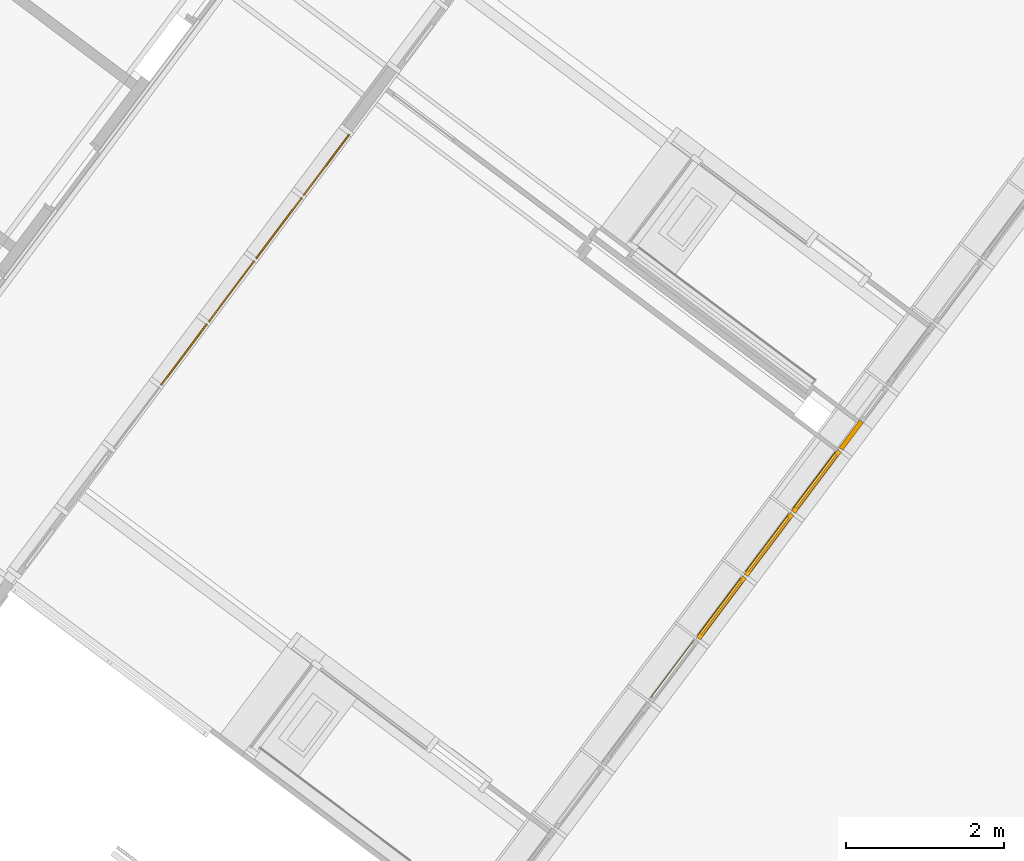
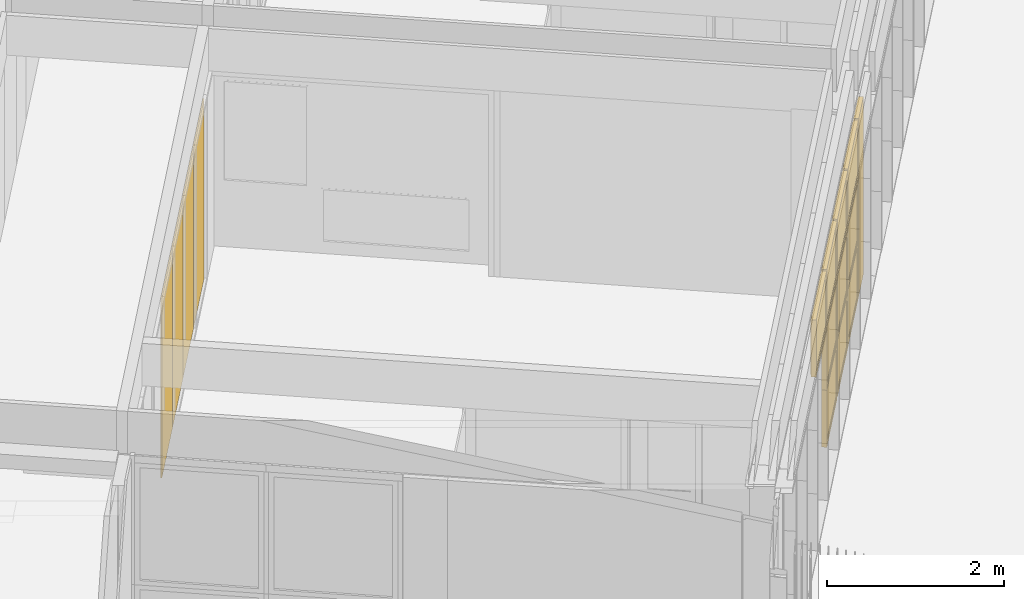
# One storey, part 151 of 243: 14 windows, 1 door, 2 elements without a shape of their own.
"""IFC2X3 building model written with IfcOpenShell, lengths in metres."""

from ifc_helpers import new_model, entity, si_unit, converted_unit, derived_unit, direction, frame, origin, origin_2d_with_axis, place, context, subcontext, project, spatial, rectangle, extrude, faceted_brep, source, transform, mapped, material, material_list, type_object, type_shapes, element, aggregate, save


model = new_model("IFC2X3")

# Units and contexts
model_context = context("Model", 3, precision=1e-05, world=origin(), true_north=direction((6.123031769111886e-17, 1.0)))
body_context = subcontext(model_context, "Body", "Model", "MODEL_VIEW")
ifc_project = project(units=[si_unit("LENGTHUNIT", "METRE"), si_unit("AREAUNIT", "SQUARE_METRE"), si_unit("VOLUMEUNIT", "CUBIC_METRE"), converted_unit("PLANEANGLEUNIT", "DEGREE", entity("IfcRatioMeasure", 0.017453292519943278), si_unit("PLANEANGLEUNIT", "RADIAN"), dimensions=[0, 0, 0, 0, 0, 0, 0]), si_unit("MASSUNIT", "GRAM", prefix="KILO"), derived_unit("MASSDENSITYUNIT", [(si_unit("MASSUNIT", "GRAM", prefix="KILO"), 1), (si_unit("LENGTHUNIT", "METRE"), -3)]), derived_unit("IONCONCENTRATIONUNIT", [(si_unit("MASSUNIT", "GRAM", prefix="KILO"), 1), (si_unit("LENGTHUNIT", "METRE"), -3)]), derived_unit("MOMENTOFINERTIAUNIT", [(si_unit("LENGTHUNIT", "METRE"), 4)]), si_unit("TIMEUNIT", "SECOND"), si_unit("FREQUENCYUNIT", "HERTZ"), si_unit("THERMODYNAMICTEMPERATUREUNIT", "DEGREE_CELSIUS"), derived_unit("THERMALTRANSMITTANCEUNIT", [(si_unit("MASSUNIT", "GRAM", prefix="KILO"), 1), (si_unit("THERMODYNAMICTEMPERATUREUNIT", "KELVIN"), -1), (si_unit("TIMEUNIT", "SECOND"), -3)]), derived_unit("THERMALCONDUCTANCEUNIT", [(si_unit("MASSUNIT", "GRAM", prefix="KILO"), 1), (si_unit("THERMODYNAMICTEMPERATUREUNIT", "KELVIN"), -1), (si_unit("TIMEUNIT", "SECOND"), -3), (si_unit("LENGTHUNIT", "METRE"), 1)]), derived_unit("VOLUMETRICFLOWRATEUNIT", [(si_unit("LENGTHUNIT", "METRE"), 3), (si_unit("TIMEUNIT", "SECOND"), -1)]), derived_unit("MASSFLOWRATEUNIT", [(si_unit("MASSUNIT", "GRAM", prefix="KILO"), 1), (si_unit("TIMEUNIT", "SECOND"), -1)]), derived_unit("ROTATIONALFREQUENCYUNIT", [(si_unit("TIMEUNIT", "SECOND"), -1)]), si_unit("ELECTRICCURRENTUNIT", "AMPERE"), si_unit("ELECTRICVOLTAGEUNIT", "VOLT"), si_unit("POWERUNIT", "WATT"), si_unit("FORCEUNIT", "NEWTON", prefix="KILO"), si_unit("ILLUMINANCEUNIT", "LUX"), si_unit("LUMINOUSFLUXUNIT", "LUMEN"), si_unit("LUMINOUSINTENSITYUNIT", "CANDELA"), derived_unit("USERDEFINED", [(si_unit("MASSUNIT", "GRAM", prefix="KILO"), -1), (si_unit("LENGTHUNIT", "METRE"), -2), (si_unit("TIMEUNIT", "SECOND"), 3), (si_unit("LUMINOUSFLUXUNIT", "LUMEN"), 1)]), derived_unit("USERDEFINED", [(si_unit("MASSUNIT", "GRAM", prefix="KILO"), 1), (si_unit("TIMEUNIT", "SECOND"), -3), (si_unit("LENGTHUNIT", "METRE"), 3), (si_unit("ELECTRICCURRENTUNIT", "AMPERE"), -2)]), derived_unit("SOUNDPOWERUNIT", [(si_unit("MASSUNIT", "GRAM", prefix="KILO"), 1), (si_unit("TIMEUNIT", "SECOND"), -3), (si_unit("LENGTHUNIT", "METRE"), 2)]), derived_unit("SOUNDPRESSUREUNIT", [(si_unit("MASSUNIT", "GRAM", prefix="KILO"), 1), (si_unit("LENGTHUNIT", "METRE"), -1), (si_unit("TIMEUNIT", "SECOND"), -2)]), derived_unit("LINEARVELOCITYUNIT", [(si_unit("LENGTHUNIT", "METRE"), 1), (si_unit("TIMEUNIT", "SECOND"), -1)]), si_unit("PRESSUREUNIT", "PASCAL"), derived_unit("USERDEFINED", [(si_unit("MASSUNIT", "GRAM", prefix="KILO"), 1), (si_unit("LENGTHUNIT", "METRE"), -2), (si_unit("TIMEUNIT", "SECOND"), -2)]), derived_unit("LINEARFORCEUNIT", [(si_unit("MASSUNIT", "GRAM", prefix="KILO"), 1), (si_unit("TIMEUNIT", "SECOND"), -2)]), derived_unit("PLANARFORCEUNIT", [(si_unit("MASSUNIT", "GRAM", prefix="KILO"), 1), (si_unit("LENGTHUNIT", "METRE"), -1), (si_unit("TIMEUNIT", "SECOND"), -2)]), derived_unit("SPECIFICHEATCAPACITYUNIT", [(si_unit("THERMODYNAMICTEMPERATUREUNIT", "KELVIN"), -1), (si_unit("LENGTHUNIT", "METRE"), 2), (si_unit("TIMEUNIT", "SECOND"), -2)]), derived_unit("HEATINGVALUEUNIT", [(si_unit("LENGTHUNIT", "METRE"), 2), (si_unit("TIMEUNIT", "SECOND"), -2)]), derived_unit("VAPORPERMEABILITYUNIT", [(si_unit("LENGTHUNIT", "METRE"), -1), (si_unit("TIMEUNIT", "SECOND"), 1)]), derived_unit("DYNAMICVISCOSITYUNIT", [(si_unit("MASSUNIT", "GRAM", prefix="KILO"), 1), (si_unit("TIMEUNIT", "SECOND"), -1), (si_unit("LENGTHUNIT", "METRE"), -1)]), derived_unit("THERMALEXPANSIONCOEFFICIENTUNIT", [(si_unit("THERMODYNAMICTEMPERATUREUNIT", "KELVIN"), -1)]), derived_unit("MODULUSOFELASTICITYUNIT", [(si_unit("MASSUNIT", "GRAM", prefix="KILO"), 1), (si_unit("LENGTHUNIT", "METRE"), -1), (si_unit("TIMEUNIT", "SECOND"), -2)]), derived_unit("ISOTHERMALMOISTURECAPACITYUNIT", [(si_unit("LENGTHUNIT", "METRE"), 3), (si_unit("MASSUNIT", "GRAM", prefix="KILO"), -1)]), derived_unit("MOISTUREDIFFUSIVITYUNIT", [(si_unit("TIMEUNIT", "SECOND"), -1), (si_unit("LENGTHUNIT", "METRE"), 2)])], contexts=[model_context])

# Site, building, storey
site_placement = place(None, frame((0.0, 0.0, 235.0), z_axis=(0.0, 0.0, 1.0), x_axis=(-0.7996477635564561, 0.6004693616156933, 0.0)))
site = spatial("IfcSite", under=ifc_project, at=site_placement, Name="Default", CompositionType="ELEMENT")
building_placement = place(site_placement, origin())
building = spatial("IfcBuilding", under=site, at=building_placement, CompositionType="ELEMENT")
storey_placement = place(building_placement, origin())
storey = spatial("IfcBuildingStorey", under=building, at=storey_placement, Name="P0- Escola", CompositionType="ELEMENT", Elevation=0.0)

# Curtain wall, windows
curtain_wall_type_1 = type_object("IfcCurtainWallType", Name="Muro cortina:MC- INT- a3", PredefinedType="NOTDEFINED")
curtain_wall_1_placement = place(storey_placement, origin())
curtain_wall_1 = element("IfcCurtainWall", 1, at=curtain_wall_1_placement, inside=storey, type_object=curtain_wall_type_1, Name="Muro cortina:MC- INT- a3", ObjectType="Muro cortina:MC- INT- a3")
ifc_material_1 = material(Name="_Vidre")
window_style_1 = type_object("IfcWindowStyle", Name="MC- Fusta- vidre fix:MC- Fusta- vidre fix", ConstructionType="NOTDEFINED", OperationType="NOTDEFINED", ParameterTakesPrecedence=False, Sizeable=False, material=ifc_material_1)
shared_shape_1 = source(origin(), body_context, "Body", "SweptSolid", [
    extrude(rectangle(XDim=0.015999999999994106, YDim=0.9699999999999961, at=origin_2d_with_axis()), frame((0.0, 0.0, 0.0), z_axis=(0.0, 0.0, 1.0), x_axis=(0.0, -1.0, 0.0)), (0.0, 0.0, 1.0), 2.475),
])
type_shapes(window_style_1, [shared_shape_1])
window_1_placement = place(curtain_wall_1_placement, frame((13.279147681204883, -24.970191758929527, 0.045000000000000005), z_axis=(0.0, 0.0, 1.0), x_axis=(0.0, -1.0, 0.0)))
window_1 = element("IfcWindow", 2, at=window_1_placement, type_object=window_style_1, material=ifc_material_1, Name="MC- Fusta- vidre fix:MC- Fusta- vidre fix", ObjectType="MC- Fusta- vidre fix:MC- Fusta- vidre fix", OverallHeight=2.475, OverallWidth=0.9699999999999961, context=body_context, shape_type="MappedRepresentation", body=[
    mapped(shared_shape_1, transform((0.0, 0.0, 0.0), scale=1.0)),
])
window_2_placement = place(curtain_wall_1_placement, frame((13.279147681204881, -23.97019175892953, 0.045000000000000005), z_axis=(0.0, 0.0, 1.0), x_axis=(0.0, -1.0, 0.0)))
window_2 = element("IfcWindow", 3, at=window_2_placement, type_object=window_style_1, material=ifc_material_1, Name="MC- Fusta- vidre fix:MC- Fusta- vidre fix", ObjectType="MC- Fusta- vidre fix:MC- Fusta- vidre fix", OverallHeight=2.475, OverallWidth=0.9699999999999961, context=body_context, shape_type="MappedRepresentation", body=[
    mapped(shared_shape_1, transform((0.0, 0.0, 0.0), scale=1.0)),
])
window_3_placement = place(curtain_wall_1_placement, frame((13.27914768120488, -22.97019175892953, 0.045000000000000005), z_axis=(0.0, 0.0, 1.0), x_axis=(0.0, -1.0, 0.0)))
window_3 = element("IfcWindow", 4, at=window_3_placement, type_object=window_style_1, material=ifc_material_1, Name="MC- Fusta- vidre fix:MC- Fusta- vidre fix", ObjectType="MC- Fusta- vidre fix:MC- Fusta- vidre fix", OverallHeight=2.475, OverallWidth=0.9699999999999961, context=body_context, shape_type="MappedRepresentation", body=[
    mapped(shared_shape_1, transform((0.0, 0.0, 0.0), scale=1.0)),
])
window_4_placement = place(curtain_wall_1_placement, frame((13.279147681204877, -21.970191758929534, 0.045000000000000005), z_axis=(0.0, 0.0, 1.0), x_axis=(0.0, -1.0, 0.0)))
window_4 = element("IfcWindow", 5, at=window_4_placement, type_object=window_style_1, material=ifc_material_1, Name="MC- Fusta- vidre fix:MC- Fusta- vidre fix", ObjectType="MC- Fusta- vidre fix:MC- Fusta- vidre fix", OverallHeight=2.475, OverallWidth=0.9699999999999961, context=body_context, shape_type="MappedRepresentation", body=[
    mapped(shared_shape_1, transform((0.0, 0.0, 0.0), scale=1.0)),
])
aggregate(curtain_wall_1, [window_1, window_2, window_3, window_4])

# Curtain wall, windows, door
curtain_wall_type_2 = type_object("IfcCurtainWallType", Name="Muro cortina:MC- EXT- MC2", PredefinedType="NOTDEFINED")
curtain_wall_2_placement = place(storey_placement, origin())
curtain_wall_2 = element("IfcCurtainWall", 6, at=curtain_wall_2_placement, inside=storey, type_object=curtain_wall_type_2, Name="Muro cortina:MC- EXT- MC2", ObjectType="Muro cortina:MC- EXT- MC2")
ifc_material_2 = material(Name="_Alumini- T1- Perfil")
ifc_material_list_1 = material_list([ifc_material_1, ifc_material_2])
window_style_2 = type_object("IfcWindowStyle", Name="MC- Alu- Conjunt vidre fix- 62x60 cm:MC- Alu- Conjunt vidre fix- 62x60 cm", ConstructionType="NOTDEFINED", OperationType="NOTDEFINED", ParameterTakesPrecedence=False, Sizeable=False, material=ifc_material_list_1)
shared_shape_2 = source(origin(), body_context, "Body", "Brep", [
    faceted_brep([(0.4361932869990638, -0.007600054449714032, 0.048806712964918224), (0.4361932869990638, -0.03160022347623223, 0.048806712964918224), (-0.4361932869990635, -0.03160022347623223, 0.048806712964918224), (-0.4361932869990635, -0.007600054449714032, 0.048806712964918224), (0.4361932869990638, -0.007600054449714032, 0.7387000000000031), (-0.4361932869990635, -0.007600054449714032, 0.7387000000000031), (-0.4361932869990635, -0.03160022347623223, 0.7387000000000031), (0.4361932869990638, -0.03160022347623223, 0.7387000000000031)], [[[0, 1, 2, 3]], [[4, 0, 3, 5]], [[5, 3, 2, 6]], [[6, 2, 1, 7]], [[7, 1, 0, 4]], [[4, 5, 6, 7]]]),
    faceted_brep([(0.48499999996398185, -0.05999999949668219, 0.7877000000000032), (0.48499999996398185, -0.05999999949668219, 0.0), (0.48499999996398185, 0.0, 0.0), (0.48499999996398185, 0.0, 0.787700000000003), (-0.48499999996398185, 0.0, 0.7877000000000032), (-0.48499999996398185, 0.0, 0.0), (0.4221931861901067, 0.0, 0.7248931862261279), (-0.42219318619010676, 0.0, 0.724893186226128), (-0.4221931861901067, 0.0, 0.0628068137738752), (0.4221931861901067, 0.0, 0.06280681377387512), (-0.48499999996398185, -0.05999999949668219, 0.0), (-0.48499999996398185, -0.05999999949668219, 0.7877000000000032), (-0.42219603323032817, -0.05999999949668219, 0.7248960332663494), (0.42219603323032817, -0.05999999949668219, 0.7248960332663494), (0.42219603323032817, -0.05999999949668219, 0.0628039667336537), (-0.42219603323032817, -0.05999999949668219, 0.0628039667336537), (0.4221960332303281, -0.03160022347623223, 0.7248960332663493), (0.42219603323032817, -0.03160022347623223, 0.0628039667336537), (-0.42219603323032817, -0.03160022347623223, 0.06280396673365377), (-0.42219603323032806, -0.03160022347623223, 0.7248960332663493), (-0.43619328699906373, -0.03160022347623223, 0.738893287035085), (0.43619328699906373, -0.03160022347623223, 0.738893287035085), (0.43619328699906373, -0.03160022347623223, 0.048806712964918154), (-0.43619328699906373, -0.03160022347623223, 0.04880671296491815), (0.43619328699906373, -0.007600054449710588, 0.738893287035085), (0.43619328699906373, -0.007600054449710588, 0.04880671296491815), (-0.43619328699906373, -0.007600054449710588, 0.048806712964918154), (-0.43619328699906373, -0.007600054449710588, 0.738893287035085), (-0.42219318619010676, -0.007600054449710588, 0.724893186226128), (0.42219318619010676, -0.007600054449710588, 0.724893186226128), (0.42219318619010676, -0.007600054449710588, 0.06280681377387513), (-0.42219318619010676, -0.007600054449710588, 0.06280681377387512)], [[[0, 1, 2, 3]], [[4, 3, 2, 5], [6, 7, 8, 9]], [[1, 10, 5, 2]], [[0, 11, 10, 1], [12, 13, 14, 15]], [[16, 17, 14, 13]], [[17, 18, 15, 14]], [[16, 19, 18, 17], [20, 21, 22, 23]], [[24, 25, 22, 21]], [[25, 26, 23, 22]], [[24, 27, 26, 25], [28, 29, 30, 31]], [[6, 9, 30, 29]], [[9, 8, 31, 30]], [[10, 11, 4, 5]], [[18, 19, 12, 15]], [[26, 27, 20, 23]], [[8, 7, 28, 31]], [[11, 0, 3, 4]], [[19, 16, 13, 12]], [[27, 24, 21, 20]], [[7, 6, 29, 28]]], outer=[[True], [True, False], [True], [True, False], [True], [True], [False, True], [True], [True], [True, False], [True], [True], [True], [True], [True], [True], [True], [True], [True], [True]]),
])
type_shapes(window_style_2, [shared_shape_2])
window_5_placement = place(curtain_wall_2_placement, frame((5.885147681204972, -23.490191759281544, 0.03229999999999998), z_axis=(0.0, 0.0, 1.0), x_axis=(0.0, 1.0, 0.0)))
window_5 = element("IfcWindow", 7, at=window_5_placement, type_object=window_style_2, material=ifc_material_list_1, Name="MC- Alu- Conjunt vidre fix- 62x60 cm:MC- Alu- Conjunt vidre fix- 62x60 cm", ObjectType="MC- Alu- Conjunt vidre fix- 62x60 cm:MC- Alu- Conjunt vidre fix- 62x60 cm", OverallHeight=0.7877000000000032, OverallWidth=0.9699999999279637, context=body_context, shape_type="MappedRepresentation", body=[
    mapped(shared_shape_2, transform((0.0, 0.0, 0.0), scale=1.0)),
])
window_6_placement = place(curtain_wall_2_placement, frame((5.885147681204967, -24.49019175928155, 0.03229999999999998), z_axis=(0.0, 0.0, 1.0), x_axis=(0.0, 1.0, 0.0)))
window_6 = element("IfcWindow", 8, at=window_6_placement, type_object=window_style_2, material=ifc_material_list_1, Name="MC- Alu- Conjunt vidre fix- 62x60 cm:MC- Alu- Conjunt vidre fix- 62x60 cm", ObjectType="MC- Alu- Conjunt vidre fix- 62x60 cm:MC- Alu- Conjunt vidre fix- 62x60 cm", OverallHeight=0.7877000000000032, OverallWidth=0.9699999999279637, context=body_context, shape_type="MappedRepresentation", body=[
    mapped(shared_shape_2, transform((0.0, 0.0, 0.0), scale=1.0)),
])
window_7_placement = place(curtain_wall_2_placement, frame((5.885147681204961, -25.49019175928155, 0.03229999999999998), z_axis=(0.0, 0.0, 1.0), x_axis=(0.0, 1.0, 0.0)))
window_7 = element("IfcWindow", 9, at=window_7_placement, type_object=window_style_2, material=ifc_material_list_1, Name="MC- Alu- Conjunt vidre fix- 62x60 cm:MC- Alu- Conjunt vidre fix- 62x60 cm", ObjectType="MC- Alu- Conjunt vidre fix- 62x60 cm:MC- Alu- Conjunt vidre fix- 62x60 cm", OverallHeight=0.7877000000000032, OverallWidth=0.9699999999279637, context=body_context, shape_type="MappedRepresentation", body=[
    mapped(shared_shape_2, transform((0.0, 0.0, 0.0), scale=1.0)),
])
ifc_material_3 = material(Name="_Aillament")
ifc_material_list_2 = material_list([ifc_material_2, ifc_material_3])
door_style = type_object("IfcDoorStyle", Name="MC- Alu- panell especific xapa:MC- Alu- panell especific xapa", ConstructionType="NOTDEFINED", OperationType="NOTDEFINED", ParameterTakesPrecedence=False, Sizeable=False, material=ifc_material_list_2)
shared_shape_3 = source(origin(), body_context, "Body", "SweptSolid", [
    extrude(rectangle(XDim=0.005999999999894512, YDim=0.43499999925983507, at=origin_2d_with_axis()), frame((0.0, -0.057000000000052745, 0.0), z_axis=(0.0, 0.0, 1.0), x_axis=(0.0, -1.0, 0.0)), (0.0, 0.0, 1.0), 2.4514499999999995),
    extrude(rectangle(XDim=0.4349999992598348, YDim=0.048000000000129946, at=origin_2d_with_axis()), frame((0.0, -0.030000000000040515, 0.0)), (0.0, 0.0, 1.0), 2.4514499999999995),
    extrude(rectangle(XDim=0.005999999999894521, YDim=0.43499999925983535, at=origin_2d_with_axis()), frame((0.0, -0.003000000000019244, 0.0), z_axis=(0.0, 0.0, 1.0), x_axis=(0.0, -1.0, 0.0)), (0.0, 0.0, 1.0), 2.4514499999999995),
])
type_shapes(door_style, [shared_shape_3])
door_placement = place(curtain_wall_2_placement, frame((5.885147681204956, -26.22269175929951, 0.03230000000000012), z_axis=(0.0, 0.0, 1.0), x_axis=(0.0, 1.0, 0.0)))
door = element("IfcDoor", 10, at=door_placement, type_object=door_style, material=ifc_material_list_2, Name="MC- Alu- panell especific xapa:MC- Alu- panell especific xapa", ObjectType="MC- Alu- panell especific xapa:MC- Alu- panell especific xapa", OverallHeight=2.4514499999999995, OverallWidth=0.4349999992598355, context=body_context, shape_type="MappedRepresentation", body=[
    mapped(shared_shape_3, transform((0.0, 0.0, 0.0), scale=1.0)),
])
window_style_3 = type_object("IfcWindowStyle", Name="MC- Alu- Conjunt vidre fix- 62x60 cm:MC- Alu- Conjunt vidre fix- 62x60 cm", ConstructionType="NOTDEFINED", OperationType="NOTDEFINED", ParameterTakesPrecedence=False, Sizeable=False, material=ifc_material_list_1)
shared_shape_4 = source(origin(), body_context, "Body", "Brep", [
    faceted_brep([(0.4361932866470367, -0.007600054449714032, 0.048806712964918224), (0.4361932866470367, -0.03160022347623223, 0.048806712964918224), (-0.43619328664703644, -0.03160022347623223, 0.048806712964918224), (-0.43619328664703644, -0.007600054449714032, 0.048806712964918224), (0.4361932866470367, -0.007600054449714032, 0.8260000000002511), (-0.43619328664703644, -0.007600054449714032, 0.8260000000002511), (-0.43619328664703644, -0.03160022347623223, 0.8260000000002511), (0.4361932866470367, -0.03160022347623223, 0.8260000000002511)], [[[0, 1, 2, 3]], [[4, 0, 3, 5]], [[5, 3, 2, 6]], [[6, 2, 1, 7]], [[7, 1, 0, 4]], [[4, 5, 6, 7]]]),
    faceted_brep([(0.4849999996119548, -0.05999999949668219, 0.875000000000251), (0.4849999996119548, -0.05999999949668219, 0.0), (0.4849999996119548, 0.0, 0.0), (0.4849999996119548, 0.0, 0.8750000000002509), (-0.4849999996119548, 0.0, 0.875000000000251), (-0.4849999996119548, 0.0, 0.0), (0.4221931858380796, 0.0, 0.8121931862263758), (-0.4221931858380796, 0.0, 0.8121931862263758), (-0.4221931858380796, 0.0, 0.0628068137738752), (0.4221931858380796, 0.0, 0.06280681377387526), (-0.4849999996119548, -0.05999999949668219, 0.0), (-0.4849999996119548, -0.05999999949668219, 0.875000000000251), (-0.4221960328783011, -0.05999999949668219, 0.8121960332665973), (0.4221960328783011, -0.05999999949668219, 0.8121960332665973), (0.4221960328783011, -0.05999999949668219, 0.0628039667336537), (-0.4221960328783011, -0.05999999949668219, 0.0628039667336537), (0.422196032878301, -0.03160022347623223, 0.8121960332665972), (0.4221960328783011, -0.03160022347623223, 0.0628039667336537), (-0.4221960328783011, -0.03160022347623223, 0.06280396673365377), (-0.42219603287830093, -0.03160022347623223, 0.8121960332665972), (-0.4361932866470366, -0.03160022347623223, 0.8261932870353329), (0.4361932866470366, -0.03160022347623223, 0.8261932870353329), (0.4361932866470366, -0.03160022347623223, 0.048806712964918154), (-0.4361932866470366, -0.03160022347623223, 0.04880671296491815), (0.4361932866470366, -0.007600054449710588, 0.8261932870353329), (0.4361932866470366, -0.007600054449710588, 0.04880671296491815), (-0.4361932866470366, -0.007600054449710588, 0.048806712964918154), (-0.4361932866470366, -0.007600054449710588, 0.8261932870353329), (-0.42219318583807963, -0.007600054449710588, 0.8121931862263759), (0.42219318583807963, -0.007600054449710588, 0.8121931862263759), (0.42219318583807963, -0.007600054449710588, 0.06280681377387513), (-0.42219318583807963, -0.007600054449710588, 0.06280681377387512)], [[[0, 1, 2, 3]], [[4, 3, 2, 5], [6, 7, 8, 9]], [[1, 10, 5, 2]], [[0, 11, 10, 1], [12, 13, 14, 15]], [[16, 17, 14, 13]], [[17, 18, 15, 14]], [[16, 19, 18, 17], [20, 21, 22, 23]], [[24, 25, 22, 21]], [[25, 26, 23, 22]], [[24, 27, 26, 25], [28, 29, 30, 31]], [[6, 9, 30, 29]], [[9, 8, 31, 30]], [[10, 11, 4, 5]], [[18, 19, 12, 15]], [[26, 27, 20, 23]], [[8, 7, 28, 31]], [[11, 0, 3, 4]], [[19, 16, 13, 12]], [[27, 24, 21, 20]], [[7, 6, 29, 28]]], outer=[[True], [True, False], [True], [True, False], [True], [True], [False, True], [True], [True], [True, False], [True], [True], [True], [True], [True], [True], [True], [True], [True], [True]]),
])
type_shapes(window_style_3, [shared_shape_4])
window_8_placement = place(curtain_wall_2_placement, frame((5.885147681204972, -23.49019175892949, 0.8199999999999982), z_axis=(0.0, 0.0, 1.0), x_axis=(0.0, 1.0, 0.0)))
window_8 = element("IfcWindow", 11, at=window_8_placement, type_object=window_style_3, material=ifc_material_list_1, Name="MC- Alu- Conjunt vidre fix- 62x60 cm:MC- Alu- Conjunt vidre fix- 62x60 cm", ObjectType="MC- Alu- Conjunt vidre fix- 62x60 cm:MC- Alu- Conjunt vidre fix- 62x60 cm", OverallHeight=0.875000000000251, OverallWidth=0.9699999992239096, context=body_context, shape_type="MappedRepresentation", body=[
    mapped(shared_shape_4, transform((0.0, 0.0, 0.0), scale=1.0)),
])
window_9_placement = place(curtain_wall_2_placement, frame((5.885147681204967, -24.490191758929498, 0.8199999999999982), z_axis=(0.0, 0.0, 1.0), x_axis=(0.0, 1.0, 0.0)))
window_9 = element("IfcWindow", 12, at=window_9_placement, type_object=window_style_3, material=ifc_material_list_1, Name="MC- Alu- Conjunt vidre fix- 62x60 cm:MC- Alu- Conjunt vidre fix- 62x60 cm", ObjectType="MC- Alu- Conjunt vidre fix- 62x60 cm:MC- Alu- Conjunt vidre fix- 62x60 cm", OverallHeight=0.875000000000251, OverallWidth=0.9699999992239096, context=body_context, shape_type="MappedRepresentation", body=[
    mapped(shared_shape_4, transform((0.0, 0.0, 0.0), scale=1.0)),
])
window_10_placement = place(curtain_wall_2_placement, frame((5.885147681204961, -25.490191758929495, 0.8199999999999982), z_axis=(0.0, 0.0, 1.0), x_axis=(0.0, 1.0, 0.0)))
window_10 = element("IfcWindow", 13, at=window_10_placement, type_object=window_style_3, material=ifc_material_list_1, Name="MC- Alu- Conjunt vidre fix- 62x60 cm:MC- Alu- Conjunt vidre fix- 62x60 cm", ObjectType="MC- Alu- Conjunt vidre fix- 62x60 cm:MC- Alu- Conjunt vidre fix- 62x60 cm", OverallHeight=0.875000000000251, OverallWidth=0.9699999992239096, context=body_context, shape_type="MappedRepresentation", body=[
    mapped(shared_shape_4, transform((0.0, 0.0, 0.0), scale=1.0)),
])
window_style_4 = type_object("IfcWindowStyle", Name="MC- Alu- Conjunt finestra basculant- 68x68 cm:MC- Alu- Conjunt finestra basculant- 68x68 cm", ConstructionType="NOTDEFINED", OperationType="NOTDEFINED", ParameterTakesPrecedence=False, Sizeable=False, material=ifc_material_list_1)
shared_shape_5 = source(origin(), body_context, "Body", "Brep", [
    faceted_brep([(0.43291170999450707, -0.03559830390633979, 0.051999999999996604), (-0.4329117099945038, -0.03559830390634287, 0.051999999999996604), (-0.4329117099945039, -0.011598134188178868, 0.051999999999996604), (0.4329117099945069, -0.011598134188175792, 0.051999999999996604), (0.43291170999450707, -0.035598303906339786, 0.7365527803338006), (0.4329117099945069, -0.011598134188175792, 0.7365527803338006), (-0.4329117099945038, -0.011598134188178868, 0.7365527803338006), (-0.4329117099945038, -0.03559830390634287, 0.7365527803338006)], [[[0, 1, 2, 3]], [[4, 0, 3, 5]], [[5, 3, 2, 6]], [[6, 2, 1, 7]], [[7, 1, 0, 4]], [[4, 5, 6, 7]]]),
    faceted_brep([(-0.41721088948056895, -0.009998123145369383, 0.7208519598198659), (-0.41721088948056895, -0.00999812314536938, 0.06789804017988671), (-0.41721088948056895, -0.007998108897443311, 0.06789804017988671), (-0.41721088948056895, -0.007998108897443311, 0.7208519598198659), (-0.4461089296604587, -0.007998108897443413, 0.7497499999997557), (0.4461089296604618, -0.007998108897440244, 0.7497499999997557), (0.4461089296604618, -0.007998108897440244, 0.03899999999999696), (-0.4461089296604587, -0.007998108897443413, 0.03899999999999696), (0.41721088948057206, -0.007998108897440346, 0.7208519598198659), (0.41721088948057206, -0.007998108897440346, 0.06789804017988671), (0.41721088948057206, -0.009998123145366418, 0.06789804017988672), (0.41721088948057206, -0.009998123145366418, 0.7208519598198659), (0.432911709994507, -0.00999812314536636, 0.7365527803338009), (-0.4329117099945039, -0.009998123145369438, 0.7365527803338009), (-0.4329117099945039, -0.009998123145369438, 0.05219721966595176), (0.432911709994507, -0.00999812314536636, 0.052197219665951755), (-0.43291170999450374, -0.04079986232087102, 0.7365527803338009), (-0.43291170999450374, -0.04079986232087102, 0.052197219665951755), (0.4329117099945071, -0.04079986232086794, 0.05219721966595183), (0.4329117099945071, -0.04079986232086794, 0.7365527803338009), (0.41721088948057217, -0.040799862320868, 0.7208519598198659), (-0.4172108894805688, -0.04079986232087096, 0.7208519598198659), (-0.4172108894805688, -0.04079986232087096, 0.06789804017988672), (0.41721088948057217, -0.040799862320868, 0.06789804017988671), (-0.4172108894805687, -0.06800005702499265, 0.7208519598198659), (-0.4172108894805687, -0.06800005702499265, 0.06789804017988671), (0.41721088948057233, -0.0680000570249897, 0.06789804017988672), (0.4172108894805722, -0.0680000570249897, 0.7208519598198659), (0.46361289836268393, -0.06800005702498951, 0.7672539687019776), (-0.46361289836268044, -0.06800005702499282, 0.7672539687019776), (-0.46361289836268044, -0.06800005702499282, 0.021496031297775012), (0.46361289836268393, -0.06800005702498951, 0.021496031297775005), (-0.46361289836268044, -0.0645000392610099, 0.7672539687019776), (-0.46361289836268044, -0.06450003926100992, 0.021496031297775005), (0.46361289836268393, -0.06450003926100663, 0.02149603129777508), (0.46361289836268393, -0.06450003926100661, 0.7672539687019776), (0.446108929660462, -0.06450003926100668, 0.7497499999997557), (-0.44610892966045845, -0.06450003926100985, 0.7497499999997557), (-0.44610892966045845, -0.06450003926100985, 0.03899999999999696), (0.446108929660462, -0.06450003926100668, 0.038999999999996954)], [[[0, 1, 2, 3]], [[4, 5, 6, 7], [8, 3, 2, 9]], [[1, 10, 9, 2]], [[0, 11, 10, 1], [12, 13, 14, 15]], [[16, 17, 14, 13]], [[17, 18, 15, 14]], [[16, 19, 18, 17], [20, 21, 22, 23]], [[24, 25, 22, 21]], [[25, 26, 23, 22]], [[24, 27, 26, 25], [28, 29, 30, 31]], [[32, 33, 30, 29]], [[33, 34, 31, 30]], [[32, 35, 34, 33], [36, 37, 38, 39]], [[4, 7, 38, 37]], [[7, 6, 39, 38]], [[10, 11, 8, 9]], [[18, 19, 12, 15]], [[26, 27, 20, 23]], [[34, 35, 28, 31]], [[6, 5, 36, 39]], [[11, 0, 3, 8]], [[19, 16, 13, 12]], [[27, 24, 21, 20]], [[35, 32, 29, 28]], [[5, 4, 37, 36]]], outer=[[True], [True, False], [True], [False, True], [True], [True], [True, False], [True], [True], [False, True], [True], [True], [True, False], [True], [True], [True], [True], [True], [True], [True], [True], [True], [True], [True], [True]]),
    faceted_brep([(0.4221931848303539, 0.0, 0.7259431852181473), (0.4221931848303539, 0.0, 0.06280681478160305), (0.4221931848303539, -0.0040000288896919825, 0.06280681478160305), (0.4221931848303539, -0.0040000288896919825, 0.7259431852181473), (-0.4221931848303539, -0.0040000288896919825, 0.7259431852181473), (-0.4221931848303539, -0.0040000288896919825, 0.06280681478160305), (0.45759980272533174, -0.0040000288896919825, 0.7613498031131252), (-0.45759980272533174, -0.0040000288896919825, 0.7613498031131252), (-0.45759980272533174, -0.0040000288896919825, 0.027400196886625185), (0.45759980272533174, -0.0040000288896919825, 0.02740019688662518), (-0.4221931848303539, 0.0, 0.06280681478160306), (-0.4221931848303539, 0.0, 0.7259431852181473), (-0.4849999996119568, 0.0, 0.7887499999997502), (0.4849999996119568, 0.0, 0.7887499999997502), (0.4849999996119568, 0.0, 0.0), (-0.4849999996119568, 0.0, 0.0), (0.4849999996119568, -0.05999999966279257, 0.7887499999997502), (0.4849999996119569, -0.05999999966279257, 0.0), (-0.4849999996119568, -0.05999999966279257, 0.0), (-0.4849999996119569, -0.05999999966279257, 0.7887499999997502), (-0.45759980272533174, -0.05999999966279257, 0.7613498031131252), (0.45759980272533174, -0.05999999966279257, 0.7613498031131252), (0.45759980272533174, -0.05999999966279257, 0.027400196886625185), (-0.45759980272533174, -0.05999999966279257, 0.02740019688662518)], [[[0, 1, 2, 3]], [[4, 3, 2, 5], [6, 7, 8, 9]], [[1, 10, 5, 2]], [[0, 11, 10, 1], [12, 13, 14, 15]], [[16, 17, 14, 13]], [[17, 18, 15, 14]], [[16, 19, 18, 17], [20, 21, 22, 23]], [[6, 9, 22, 21]], [[9, 8, 23, 22]], [[10, 11, 4, 5]], [[18, 19, 12, 15]], [[8, 7, 20, 23]], [[11, 0, 3, 4]], [[19, 16, 13, 12]], [[7, 6, 21, 20]]], outer=[[True], [False, True], [True], [False, True], [True], [True], [True, False], [True], [True], [True], [True], [True], [True], [True], [True]]),
])
type_shapes(window_style_4, [shared_shape_5])
window_11_placement = place(curtain_wall_2_placement, frame((5.885147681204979, -22.490191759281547, 1.695000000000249), z_axis=(0.0, 0.0, 1.0), x_axis=(0.0, 1.0, 0.0)))
window_11 = element("IfcWindow", 14, at=window_11_placement, type_object=window_style_4, material=ifc_material_list_1, Name="MC- Alu- Conjunt finestra basculant- 68x68 cm:MC- Alu- Conjunt finestra basculant- 68x68 cm", ObjectType="MC- Alu- Conjunt finestra basculant- 68x68 cm:MC- Alu- Conjunt finestra basculant- 68x68 cm", OverallHeight=0.78874999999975, OverallWidth=0.9699999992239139, context=body_context, shape_type="MappedRepresentation", body=[
    mapped(shared_shape_5, transform((0.0, 0.0, 0.0), scale=1.0)),
])
window_12_placement = place(curtain_wall_2_placement, frame((5.885147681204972, -23.490191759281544, 1.695000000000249), z_axis=(0.0, 0.0, 1.0), x_axis=(0.0, 1.0, 0.0)))
window_12 = element("IfcWindow", 15, at=window_12_placement, type_object=window_style_4, material=ifc_material_list_1, Name="MC- Alu- Conjunt finestra basculant- 68x68 cm:MC- Alu- Conjunt finestra basculant- 68x68 cm", ObjectType="MC- Alu- Conjunt finestra basculant- 68x68 cm:MC- Alu- Conjunt finestra basculant- 68x68 cm", OverallHeight=0.78874999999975, OverallWidth=0.9699999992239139, context=body_context, shape_type="MappedRepresentation", body=[
    mapped(shared_shape_5, transform((0.0, 0.0, 0.0), scale=1.0)),
])
window_13_placement = place(curtain_wall_2_placement, frame((5.885147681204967, -24.49019175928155, 1.695000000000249), z_axis=(0.0, 0.0, 1.0), x_axis=(0.0, 1.0, 0.0)))
window_13 = element("IfcWindow", 16, at=window_13_placement, type_object=window_style_4, material=ifc_material_list_1, Name="MC- Alu- Conjunt finestra basculant- 68x68 cm:MC- Alu- Conjunt finestra basculant- 68x68 cm", ObjectType="MC- Alu- Conjunt finestra basculant- 68x68 cm:MC- Alu- Conjunt finestra basculant- 68x68 cm", OverallHeight=0.78874999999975, OverallWidth=0.9699999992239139, context=body_context, shape_type="MappedRepresentation", body=[
    mapped(shared_shape_5, transform((0.0, 0.0, 0.0), scale=1.0)),
])
window_14_placement = place(curtain_wall_2_placement, frame((5.885147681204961, -25.49019175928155, 1.695000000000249), z_axis=(0.0, 0.0, 1.0), x_axis=(0.0, 1.0, 0.0)))
window_14 = element("IfcWindow", 17, at=window_14_placement, type_object=window_style_4, material=ifc_material_list_1, Name="MC- Alu- Conjunt finestra basculant- 68x68 cm:MC- Alu- Conjunt finestra basculant- 68x68 cm", ObjectType="MC- Alu- Conjunt finestra basculant- 68x68 cm:MC- Alu- Conjunt finestra basculant- 68x68 cm", OverallHeight=0.78874999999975, OverallWidth=0.9699999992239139, context=body_context, shape_type="MappedRepresentation", body=[
    mapped(shared_shape_5, transform((0.0, 0.0, 0.0), scale=1.0)),
])
aggregate(curtain_wall_2, [window_5, window_6, window_7, door, window_8, window_9, window_10, window_11, window_12, window_13, window_14])

save(model, "model.ifc")
